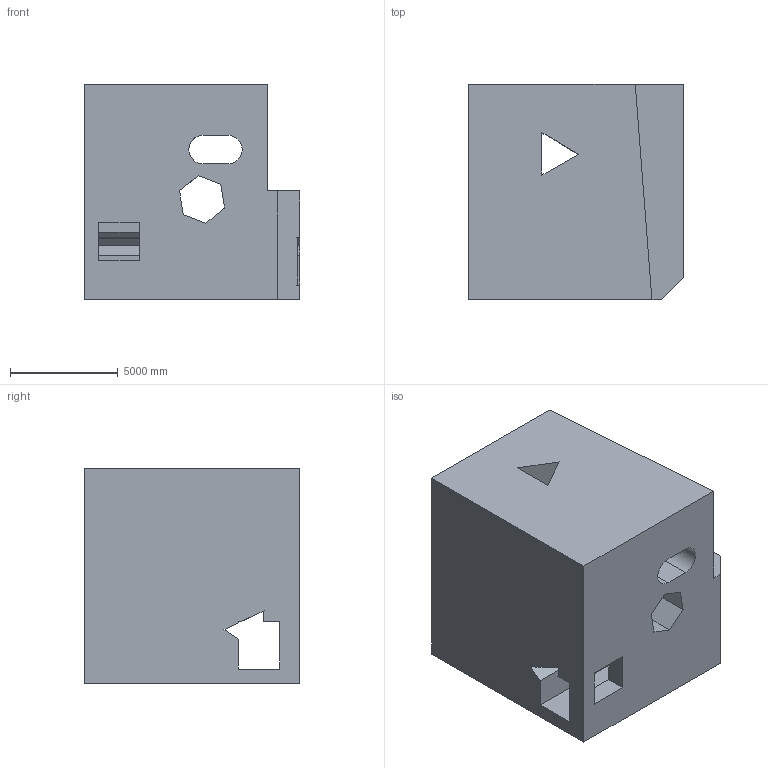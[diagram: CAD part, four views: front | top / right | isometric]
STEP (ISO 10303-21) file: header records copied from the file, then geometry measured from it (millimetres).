
FILE_DESCRIPTION (( 'STEP AP203' ), '1' );
FILE_NAME ('1843.STEP', '2022-08-19T13:27:08', ( 'user' ), ( '' ), 'SwSTEP 2.0', 'SolidWorks 2021', '' );
FILE_SCHEMA (( 'CONFIG_CONTROL_DESIGN' ));
Length unit declared in the file: centimetre
Products named in the file (1): 1843
Bounding box: 10000 x 10000 x 10000 mm (x, y, z)
Volume: 763374516667.1 mm3; surface area: 868540388.1 mm2
Topology: 1 solids, 1 shells, 45 faces, 141 edges, 94 vertices
Faces by surface type: plane 43, cylinder 2
Entity records: 1644 total; most frequent: CARTESIAN_POINT 287, ORIENTED_EDGE 282, DIRECTION 235, EDGE_CURVE 141, LINE 135, VECTOR 135, VERTEX_POINT 94, EDGE_LOOP 55
